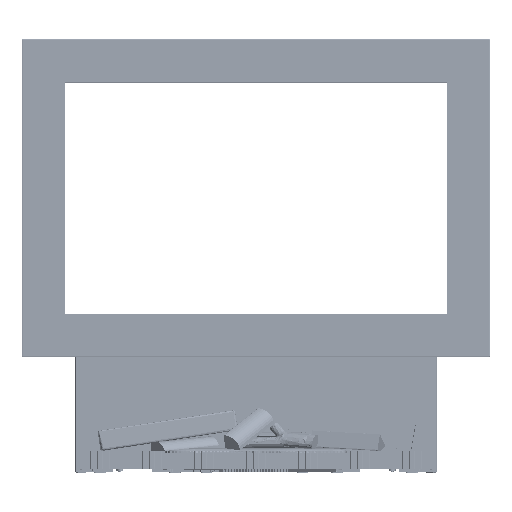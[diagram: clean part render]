
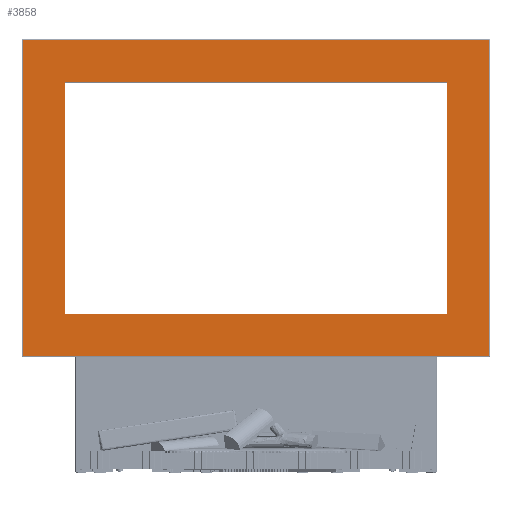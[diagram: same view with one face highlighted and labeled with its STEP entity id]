
A CAD part, top view. The second image highlights one B-rep face of the part: STEP entity #3858.
In plain terms, the highlighted planar face has unit normal (0, 0, 1) as drawn and (0, 0, -1) by its records, which use the part's own axes.
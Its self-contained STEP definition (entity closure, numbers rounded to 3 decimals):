
#1076 = CARTESIAN_POINT ( 'NONE',  ( 0., -148., 0. ) ) ;
#2713 = EDGE_CURVE ( 'NONE', #299607, #185144, #56629, .T. ) ;
#3084 = DIRECTION ( 'NONE',  ( 1., 0., 0. ) ) ;
#3858 = ADVANCED_FACE ( 'NONE', ( #116408, #39578 ), #87646, .T. ) ;
#7051 = LINE ( 'NONE', #79171, #311036 ) ;
#11861 = VECTOR ( 'NONE', #231878, 1000. ) ;
#12753 = CARTESIAN_POINT ( 'NONE',  ( 810., -2., 0. ) ) ;
#20539 = VECTOR ( 'NONE', #148490, 1000. ) ;
#26441 = VECTOR ( 'NONE', #3084, 1000. ) ;
#28372 = CARTESIAN_POINT ( 'NONE',  ( 0., -1098., 0. ) ) ;
#33360 = DIRECTION ( 'NONE',  ( 0., 1., 0. ) ) ;
#39578 = FACE_OUTER_BOUND ( 'NONE', #301344, .T. ) ;
#45539 = AXIS2_PLACEMENT_3D ( 'NONE', #209438, #188569, #260636 ) ;
#46113 = LINE ( 'NONE', #28372, #71203 ) ;
#49829 = ORIENTED_EDGE ( 'NONE', *, *, #225368, .T. ) ;
#56629 = LINE ( 'NONE', #82217, #157370 ) ;
#57075 = ORIENTED_EDGE ( 'NONE', *, *, #215139, .T. ) ;
#58989 = LINE ( 'NONE', #228829, #157744 ) ;
#61169 = CARTESIAN_POINT ( 'NONE',  ( -662., -148., 0. ) ) ;
#70041 = LINE ( 'NONE', #1076, #20539 ) ;
#71203 = VECTOR ( 'NONE', #174205, 1000. ) ;
#79171 = CARTESIAN_POINT ( 'NONE',  ( -662., -550., 0. ) ) ;
#81728 = VERTEX_POINT ( 'NONE', #269336 ) ;
#82217 = CARTESIAN_POINT ( 'NONE',  ( 662., -550., 0. ) ) ;
#87646 = PLANE ( 'NONE',  #45539 ) ;
#96944 = EDGE_CURVE ( 'NONE', #124266, #299607, #142590, .T. ) ;
#109539 = DIRECTION ( 'NONE',  ( 0., -1., 0. ) ) ;
#113591 = CARTESIAN_POINT ( 'NONE',  ( 808., -2., 0. ) ) ;
#116408 = FACE_BOUND ( 'NONE', #227453, .T. ) ;
#118684 = VERTEX_POINT ( 'NONE', #245335 ) ;
#124266 = VERTEX_POINT ( 'NONE', #172994 ) ;
#126630 = CARTESIAN_POINT ( 'NONE',  ( 662., -952., 0. ) ) ;
#132211 = VECTOR ( 'NONE', #158566, 1000. ) ;
#133764 = ORIENTED_EDGE ( 'NONE', *, *, #144407, .T. ) ;
#134137 = CARTESIAN_POINT ( 'NONE',  ( 808., -550., 0. ) ) ;
#135163 = CARTESIAN_POINT ( 'NONE',  ( 662., -148., 0. ) ) ;
#142590 = LINE ( 'NONE', #291515, #26441 ) ;
#144407 = EDGE_CURVE ( 'NONE', #226171, #118684, #46113, .T. ) ;
#148490 = DIRECTION ( 'NONE',  ( -1., 0., 0. ) ) ;
#153838 = LINE ( 'NONE', #12753, #132211 ) ;
#157370 = VECTOR ( 'NONE', #252073, 1000. ) ;
#157744 = VECTOR ( 'NONE', #33360, 1000. ) ;
#158161 = LINE ( 'NONE', #134137, #11861 ) ;
#158566 = DIRECTION ( 'NONE',  ( 1., 0., 0. ) ) ;
#158720 = CARTESIAN_POINT ( 'NONE',  ( 808., -1098., 0. ) ) ;
#165976 = ORIENTED_EDGE ( 'NONE', *, *, #219133, .T. ) ;
#170906 = VERTEX_POINT ( 'NONE', #113591 ) ;
#172994 = CARTESIAN_POINT ( 'NONE',  ( -662., -952., 0. ) ) ;
#174205 = DIRECTION ( 'NONE',  ( -1., 0., 0. ) ) ;
#178243 = ORIENTED_EDGE ( 'NONE', *, *, #299789, .T. ) ;
#179076 = ORIENTED_EDGE ( 'NONE', *, *, #283059, .T. ) ;
#185144 = VERTEX_POINT ( 'NONE', #135163 ) ;
#188569 = DIRECTION ( 'NONE',  ( 0., 0., -1. ) ) ;
#200134 = ORIENTED_EDGE ( 'NONE', *, *, #2713, .T. ) ;
#209438 = CARTESIAN_POINT ( 'NONE',  ( 0., -550., 0. ) ) ;
#214254 = VERTEX_POINT ( 'NONE', #61169 ) ;
#215139 = EDGE_CURVE ( 'NONE', #214254, #124266, #7051, .T. ) ;
#216497 = ORIENTED_EDGE ( 'NONE', *, *, #96944, .T. ) ;
#219133 = EDGE_CURVE ( 'NONE', #185144, #214254, #70041, .T. ) ;
#225368 = EDGE_CURVE ( 'NONE', #118684, #81728, #58989, .T. ) ;
#226171 = VERTEX_POINT ( 'NONE', #158720 ) ;
#227453 = EDGE_LOOP ( 'NONE', ( #165976, #57075, #216497, #200134 ) ) ;
#228829 = CARTESIAN_POINT ( 'NONE',  ( -808., 0., 0. ) ) ;
#231878 = DIRECTION ( 'NONE',  ( 0., -1., 0. ) ) ;
#245335 = CARTESIAN_POINT ( 'NONE',  ( -808., -1098., 0. ) ) ;
#252073 = DIRECTION ( 'NONE',  ( 0., 1., 0. ) ) ;
#260636 = DIRECTION ( 'NONE',  ( -1., 0., 0. ) ) ;
#269336 = CARTESIAN_POINT ( 'NONE',  ( -808., -2., 0. ) ) ;
#283059 = EDGE_CURVE ( 'NONE', #170906, #226171, #158161, .T. ) ;
#291515 = CARTESIAN_POINT ( 'NONE',  ( 0., -952., 0. ) ) ;
#299607 = VERTEX_POINT ( 'NONE', #126630 ) ;
#299789 = EDGE_CURVE ( 'NONE', #81728, #170906, #153838, .T. ) ;
#301344 = EDGE_LOOP ( 'NONE', ( #133764, #49829, #178243, #179076 ) ) ;
#311036 = VECTOR ( 'NONE', #109539, 1000. ) ;
